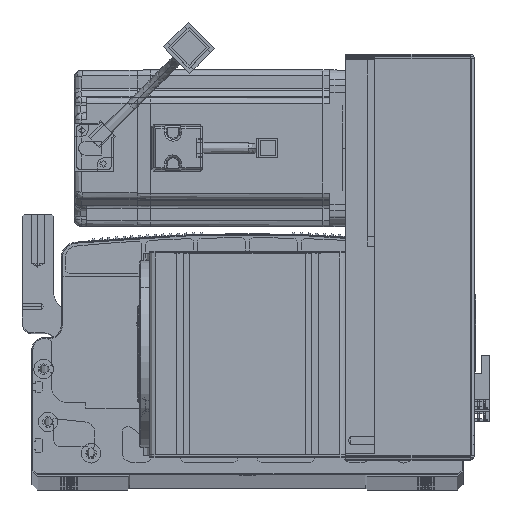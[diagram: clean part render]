
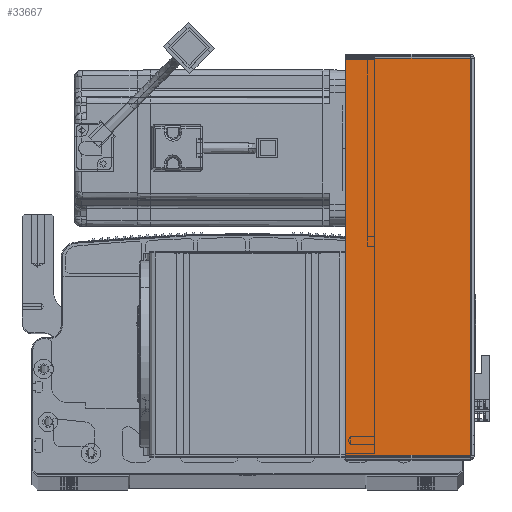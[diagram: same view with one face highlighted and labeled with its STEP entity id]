
A CAD part, top view. The second image highlights one B-rep face of the part: STEP entity #33667.
In plain terms, the highlighted planar face has unit normal (0, 0, 1) as drawn and (0, -1, 0) by its records, which use the part's own axes.
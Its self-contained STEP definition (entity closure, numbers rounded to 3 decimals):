
#559 = CARTESIAN_POINT ( 'NONE',  ( 0., -1.5, 0. ) ) ;
#9022 = DIRECTION ( 'NONE',  ( 0., 0., 1. ) ) ;
#10235 = AXIS2_PLACEMENT_3D ( 'NONE', #559, #64503, #73378 ) ;
#16823 = DIRECTION ( 'NONE',  ( 0., 0., 1. ) ) ;
#17537 = CARTESIAN_POINT ( 'NONE',  ( 0.737, -1.5, -0.707 ) ) ;
#18756 = ORIENTED_EDGE ( 'NONE', *, *, #78437, .F. ) ;
#22138 = CARTESIAN_POINT ( 'NONE',  ( 64.5, -1.5, -203.293 ) ) ;
#22488 = CARTESIAN_POINT ( 'NONE',  ( 0.737, -1.5, -203.293 ) ) ;
#26309 = LINE ( 'NONE', #51703, #102153 ) ;
#27086 = VERTEX_POINT ( 'NONE', #17537 ) ;
#33667 = ADVANCED_FACE ( 'NONE', ( #49652 ), #104459, .F. ) ;
#34797 = DIRECTION ( 'NONE',  ( 1., 0., 0. ) ) ;
#35840 = LINE ( 'NONE', #99171, #75211 ) ;
#38551 = VERTEX_POINT ( 'NONE', #22488 ) ;
#39311 = LINE ( 'NONE', #56449, #79875 ) ;
#41751 = EDGE_CURVE ( 'NONE', #38551, #75154, #26309, .T. ) ;
#43638 = ORIENTED_EDGE ( 'NONE', *, *, #41751, .T. ) ;
#48946 = CARTESIAN_POINT ( 'NONE',  ( 64.5, -1.5, 0. ) ) ;
#49652 = FACE_OUTER_BOUND ( 'NONE', #84439, .T. ) ;
#51703 = CARTESIAN_POINT ( 'NONE',  ( 0., -1.5, -203.293 ) ) ;
#56449 = CARTESIAN_POINT ( 'NONE',  ( 0.737, -1.5, 0. ) ) ;
#64503 = DIRECTION ( 'NONE',  ( 0., 1., 0. ) ) ;
#69930 = ORIENTED_EDGE ( 'NONE', *, *, #103961, .T. ) ;
#73378 = DIRECTION ( 'NONE',  ( -1., 0., 0. ) ) ;
#74991 = LINE ( 'NONE', #48946, #77406 ) ;
#75154 = VERTEX_POINT ( 'NONE', #22138 ) ;
#75211 = VECTOR ( 'NONE', #34797, 1000. ) ;
#77406 = VECTOR ( 'NONE', #9022, 1000. ) ;
#78437 = EDGE_CURVE ( 'NONE', #27086, #102595, #35840, .T. ) ;
#79875 = VECTOR ( 'NONE', #16823, 1000. ) ;
#84183 = DIRECTION ( 'NONE',  ( 1., 0., 0. ) ) ;
#84439 = EDGE_LOOP ( 'NONE', ( #92701, #43638, #69930, #18756 ) ) ;
#92701 = ORIENTED_EDGE ( 'NONE', *, *, #103953, .F. ) ;
#99171 = CARTESIAN_POINT ( 'NONE',  ( 0., -1.5, -0.707 ) ) ;
#102153 = VECTOR ( 'NONE', #84183, 1000. ) ;
#102595 = VERTEX_POINT ( 'NONE', #104513 ) ;
#103953 = EDGE_CURVE ( 'NONE', #38551, #27086, #39311, .T. ) ;
#103961 = EDGE_CURVE ( 'NONE', #75154, #102595, #74991, .T. ) ;
#104459 = PLANE ( 'NONE',  #10235 ) ;
#104513 = CARTESIAN_POINT ( 'NONE',  ( 64.5, -1.5, -0.707 ) ) ;
